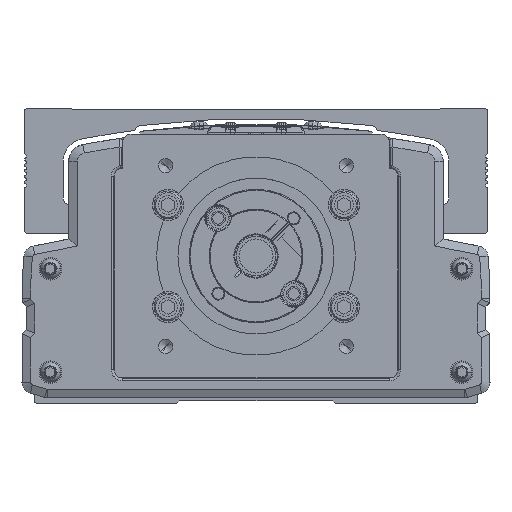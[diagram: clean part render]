
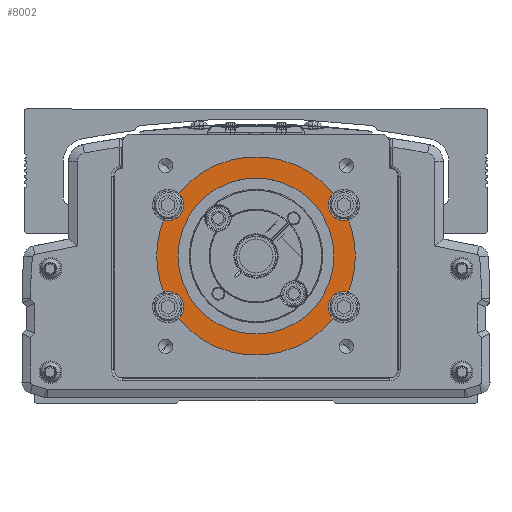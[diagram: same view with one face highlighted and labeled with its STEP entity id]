
A CAD part, front view. The second image highlights one B-rep face of the part: STEP entity #8002.
In plain terms, the highlighted planar face has unit normal (0, -1, 0).
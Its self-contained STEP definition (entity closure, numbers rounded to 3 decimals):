
#8002=ADVANCED_FACE('',(#16782,#16783),#16784,.F.);
#16782=FACE_OUTER_BOUND('',#28710,.T.);
#16783=FACE_BOUND('',#28711,.T.);
#16784=PLANE('',#28712);
#28710=EDGE_LOOP('',(#51833,#51834,#51835,#51836,#51837,#51838,#51839,#51840,#51841,#51842,#51843,#51844,#51845,#51846));
#28711=EDGE_LOOP('',(#51847,#51848));
#28712=AXIS2_PLACEMENT_3D('',#51849,#51850,#51851);
#51833=ORIENTED_EDGE('',*,*,#65956,.F.);
#51834=ORIENTED_EDGE('',*,*,#62386,.T.);
#51835=ORIENTED_EDGE('',*,*,#64137,.T.);
#51836=ORIENTED_EDGE('',*,*,#60828,.F.);
#51837=ORIENTED_EDGE('',*,*,#69271,.F.);
#51838=ORIENTED_EDGE('',*,*,#65382,.T.);
#51839=ORIENTED_EDGE('',*,*,#64700,.F.);
#51840=ORIENTED_EDGE('',*,*,#64638,.F.);
#51841=ORIENTED_EDGE('',*,*,#65147,.T.);
#51842=ORIENTED_EDGE('',*,*,#63870,.T.);
#51843=ORIENTED_EDGE('',*,*,#69272,.F.);
#51844=ORIENTED_EDGE('',*,*,#67733,.F.);
#51845=ORIENTED_EDGE('',*,*,#69199,.T.);
#51846=ORIENTED_EDGE('',*,*,#66329,.F.);
#51847=ORIENTED_EDGE('',*,*,#60840,.F.);
#51848=ORIENTED_EDGE('',*,*,#61518,.F.);
#51849=CARTESIAN_POINT('',(-600.,-96.778,0.));
#51850=DIRECTION('',(0.,1.0,0.));
#51851=DIRECTION('',(-1.0,0.,0.));
#60828=EDGE_CURVE('',#72425,#72427,#72428,.T.);
#60840=EDGE_CURVE('',#72447,#72443,#72449,.T.);
#61518=EDGE_CURVE('',#72443,#72447,#73639,.T.);
#62386=EDGE_CURVE('',#75122,#75119,#75123,.T.);
#63870=EDGE_CURVE('',#77594,#77596,#77598,.T.);
#64137=EDGE_CURVE('',#75119,#72427,#78023,.T.);
#64638=EDGE_CURVE('',#78815,#78817,#78818,.T.);
#64700=EDGE_CURVE('',#78817,#78914,#78915,.T.);
#65147=EDGE_CURVE('',#78815,#77594,#79597,.T.);
#65382=EDGE_CURVE('',#79953,#78914,#79955,.T.);
#65956=EDGE_CURVE('',#75122,#80779,#80780,.T.);
#66329=EDGE_CURVE('',#80779,#81330,#81331,.T.);
#67733=EDGE_CURVE('',#83243,#83245,#83246,.T.);
#69199=EDGE_CURVE('',#83243,#81330,#85075,.T.);
#69271=EDGE_CURVE('',#79953,#72425,#85167,.T.);
#69272=EDGE_CURVE('',#83245,#77596,#85168,.T.);
#72425=VERTEX_POINT('',#89046);
#72427=VERTEX_POINT('',#89049);
#72428=CIRCLE('',#89050,5.5);
#72443=VERTEX_POINT('',#89070);
#72447=VERTEX_POINT('',#89075);
#72449=CIRCLE('',#89078,27.5);
#73639=CIRCLE('',#90862,27.5);
#75119=VERTEX_POINT('',#92982);
#75122=VERTEX_POINT('',#92986);
#75123=CIRCLE('',#92987,35.0);
#77594=VERTEX_POINT('',#96403);
#77596=VERTEX_POINT('',#96406);
#77598=CIRCLE('',#96409,35.0);
#78023=CIRCLE('',#97023,35.0);
#78815=VERTEX_POINT('',#98209);
#78817=VERTEX_POINT('',#98212);
#78818=CIRCLE('',#98213,5.5);
#78914=VERTEX_POINT('',#98524);
#78915=CIRCLE('',#98525,5.5);
#79597=CIRCLE('',#99515,35.0);
#79953=VERTEX_POINT('',#100018);
#79955=CIRCLE('',#100021,35.0);
#80779=VERTEX_POINT('',#101235);
#80780=CIRCLE('',#101236,5.5);
#81330=VERTEX_POINT('',#102037);
#81331=CIRCLE('',#102038,5.5);
#83243=VERTEX_POINT('',#105098);
#83245=VERTEX_POINT('',#105101);
#83246=CIRCLE('',#105102,5.5);
#85075=CIRCLE('',#107757,35.0);
#85167=CIRCLE('',#107895,5.5);
#85168=CIRCLE('',#107896,5.5);
#89046=CARTESIAN_POINT('',(-625.5,-96.778,-18.));
#89049=CARTESIAN_POINT('',(-632.6,-96.778,-12.738));
#89050=AXIS2_PLACEMENT_3D('',#111406,#111407,#111408);
#89070=CARTESIAN_POINT('',(-627.5,-96.778,0.));
#89075=CARTESIAN_POINT('',(-572.5,-96.778,0.));
#89078=AXIS2_PLACEMENT_3D('',#111422,#111423,#111424);
#90862=AXIS2_PLACEMENT_3D('',#112376,#112377,#112378);
#92982=CARTESIAN_POINT('',(-635.,-96.778,0.));
#92986=CARTESIAN_POINT('',(-632.6,-96.778,12.738));
#92987=AXIS2_PLACEMENT_3D('',#113562,#113563,#113564);
#96403=CARTESIAN_POINT('',(-565.,-96.778,0.));
#96406=CARTESIAN_POINT('',(-567.4,-96.778,12.738));
#96409=AXIS2_PLACEMENT_3D('',#115734,#115735,#115736);
#97023=AXIS2_PLACEMENT_3D('',#116070,#116071,#116072);
#98209=CARTESIAN_POINT('',(-567.4,-96.778,-12.738));
#98212=CARTESIAN_POINT('',(-574.5,-96.778,-18.));
#98213=AXIS2_PLACEMENT_3D('',#116779,#116780,#116781);
#98524=CARTESIAN_POINT('',(-572.777,-96.778,-21.998));
#98525=AXIS2_PLACEMENT_3D('',#116832,#116833,#116834);
#99515=AXIS2_PLACEMENT_3D('',#117460,#117461,#117462);
#100018=CARTESIAN_POINT('',(-627.223,-96.778,-21.998));
#100021=AXIS2_PLACEMENT_3D('',#117802,#117803,#117804);
#101235=CARTESIAN_POINT('',(-625.5,-96.778,18.));
#101236=AXIS2_PLACEMENT_3D('',#118532,#118533,#118534);
#102037=CARTESIAN_POINT('',(-627.223,-96.778,21.998));
#102038=AXIS2_PLACEMENT_3D('',#118986,#118987,#118988);
#105098=CARTESIAN_POINT('',(-572.777,-96.778,21.998));
#105101=CARTESIAN_POINT('',(-574.5,-96.778,18.));
#105102=AXIS2_PLACEMENT_3D('',#120724,#120725,#120726);
#107757=AXIS2_PLACEMENT_3D('',#122517,#122518,#122519);
#107895=AXIS2_PLACEMENT_3D('',#122596,#122597,#122598);
#107896=AXIS2_PLACEMENT_3D('',#122599,#122600,#122601);
#111406=CARTESIAN_POINT('',(-631.,-96.778,-18.));
#111407=DIRECTION('',(0.,-1.0,0.));
#111408=DIRECTION('',(-1.0,0.,0.));
#111422=CARTESIAN_POINT('',(-600.,-96.778,0.));
#111423=DIRECTION('',(0.,-1.0,0.));
#111424=DIRECTION('',(-1.0,0.,0.));
#112376=CARTESIAN_POINT('',(-600.,-96.778,0.));
#112377=DIRECTION('',(0.,-1.0,0.));
#112378=DIRECTION('',(-1.0,0.,0.));
#113562=CARTESIAN_POINT('',(-600.,-96.778,0.));
#113563=DIRECTION('',(0.,-1.0,0.));
#113564=DIRECTION('',(-1.0,0.,0.));
#115734=CARTESIAN_POINT('',(-600.,-96.778,0.));
#115735=DIRECTION('',(0.,-1.0,0.));
#115736=DIRECTION('',(-1.0,0.,0.));
#116070=CARTESIAN_POINT('',(-600.,-96.778,0.));
#116071=DIRECTION('',(0.,-1.0,0.));
#116072=DIRECTION('',(-1.0,0.,0.));
#116779=CARTESIAN_POINT('',(-569.,-96.778,-18.));
#116780=DIRECTION('',(0.,-1.0,0.));
#116781=DIRECTION('',(1.0,0.,0.));
#116832=CARTESIAN_POINT('',(-569.,-96.778,-18.));
#116833=DIRECTION('',(0.,-1.0,0.));
#116834=DIRECTION('',(1.0,0.,0.));
#117460=CARTESIAN_POINT('',(-600.,-96.778,0.));
#117461=DIRECTION('',(0.,-1.0,0.));
#117462=DIRECTION('',(-1.0,0.,0.));
#117802=CARTESIAN_POINT('',(-600.,-96.778,0.));
#117803=DIRECTION('',(0.,-1.0,0.));
#117804=DIRECTION('',(-1.0,0.,0.));
#118532=CARTESIAN_POINT('',(-631.,-96.778,18.));
#118533=DIRECTION('',(0.,-1.0,0.));
#118534=DIRECTION('',(-1.0,0.,0.));
#118986=CARTESIAN_POINT('',(-631.,-96.778,18.));
#118987=DIRECTION('',(0.,-1.0,0.));
#118988=DIRECTION('',(-1.0,0.,0.));
#120724=CARTESIAN_POINT('',(-569.,-96.778,18.));
#120725=DIRECTION('',(0.,-1.0,0.));
#120726=DIRECTION('',(1.0,0.,0.));
#122517=CARTESIAN_POINT('',(-600.,-96.778,0.));
#122518=DIRECTION('',(0.,-1.0,0.));
#122519=DIRECTION('',(-1.0,0.,0.));
#122596=CARTESIAN_POINT('',(-631.,-96.778,-18.));
#122597=DIRECTION('',(0.,-1.0,0.));
#122598=DIRECTION('',(-1.0,0.,0.));
#122599=CARTESIAN_POINT('',(-569.,-96.778,18.));
#122600=DIRECTION('',(0.,-1.0,0.));
#122601=DIRECTION('',(1.0,0.,0.));
